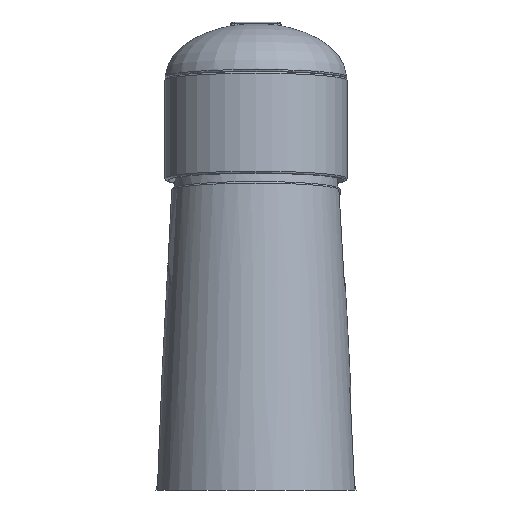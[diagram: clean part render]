
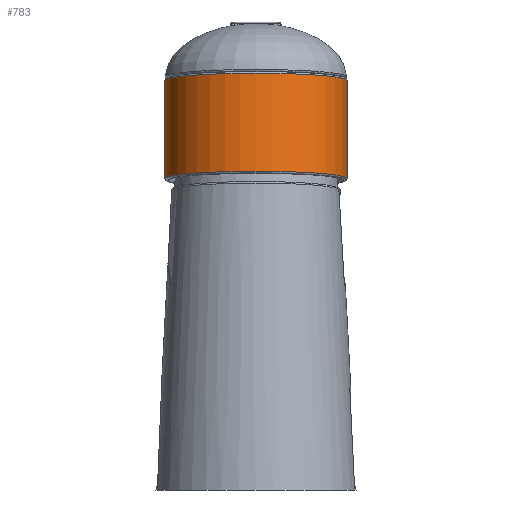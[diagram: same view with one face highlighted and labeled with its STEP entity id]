
A CAD part, left-side view. The second image highlights one B-rep face of the part: STEP entity #783.
In plain terms, the highlighted cylindrical face has radius 25 mm (diameter 50 mm), a full revolution.
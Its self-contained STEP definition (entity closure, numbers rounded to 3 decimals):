
#783=ADVANCED_FACE('',(#4596,#4598,#4600),#4602,.T.);
#4596=FACE_OUTER_BOUND('',#4597,.T.);
#4597=EDGE_LOOP('',(#7084));
#4598=FACE_OUTER_BOUND('',#4599,.T.);
#4599=EDGE_LOOP('',(#7085));
#4600=FACE_BOUND('',#4601,.T.);
#4601=EDGE_LOOP('',(#7086,#7087,#7088,#7089));
#4602=CYLINDRICAL_SURFACE('',#4603,25.);
#4603=AXIS2_PLACEMENT_3D('',#4604,#4605,#4606);
#4604=CARTESIAN_POINT('',(0.,0.,0.));
#4605=DIRECTION('',(0.,0.,1.));
#4606=DIRECTION('',(0.,1.,0.));
#7084=ORIENTED_EDGE('',*,*,#7442,.F.);
#7085=ORIENTED_EDGE('',*,*,#7441,.T.);
#7086=ORIENTED_EDGE('',*,*,#7443,.F.);
#7087=ORIENTED_EDGE('',*,*,#7444,.F.);
#7088=ORIENTED_EDGE('',*,*,#7445,.F.);
#7089=ORIENTED_EDGE('',*,*,#7446,.F.);
#7441=EDGE_CURVE('',#7795,#7795,#7796,.T.);
#7442=EDGE_CURVE('',#7797,#7797,#7798,.T.);
#7443=EDGE_CURVE('',#7799,#7800,#7801,.T.);
#7444=EDGE_CURVE('',#7802,#7799,#7803,.T.);
#7445=EDGE_CURVE('',#7804,#7802,#7805,.F.);
#7446=EDGE_CURVE('',#7800,#7804,#7806,.F.);
#7795=VERTEX_POINT('',#9744);
#7796=CIRCLE('',#9745,25.);
#7797=VERTEX_POINT('',#9749);
#7798=CIRCLE('',#9750,25.);
#7799=VERTEX_POINT('',#9754);
#7800=VERTEX_POINT('',#9755);
#7801=LINE('',#9756,#9757);
#7802=VERTEX_POINT('',#9759);
#7803=B_SPLINE_CURVE_WITH_KNOTS('',3,
(#9760,#9761,#9762,#9763,#9764,#9765,#9766,#9767,#9768,#9769,#9770,#9771,#9772,#9773,
#9774,#9775,#9776,#9777,#9778,#9779),
.UNSPECIFIED.,.F.,.F.,
(4,1,3,1,1,1,1,1,1,1,1,3,1,4),
(0.,0.089,0.138,0.223,0.308,0.391,
0.473,0.554,0.635,0.717,0.801,
0.862,0.95,1.),
.UNSPECIFIED.);
#7804=VERTEX_POINT('',#9780);
#7805=LINE('',#9781,#9782);
#7806=B_SPLINE_CURVE_WITH_KNOTS('',3,
(#9784,#9785,#9786,#9787,#9788,#9789,#9790,#9791,#9792,#9793,#9794,#9795,#9796,#9797,
#9798,#9799,#9800,#9801,#9802,#9803),
.UNSPECIFIED.,.F.,.F.,
(4,1,3,1,1,1,1,1,1,1,1,3,1,4),
(0.,0.088,0.137,0.222,0.307,0.39,
0.472,0.552,0.634,0.716,0.799,
0.863,0.95,1.),
.UNSPECIFIED.);
#9744=CARTESIAN_POINT('',(0.,25.,0.5));
#9745=AXIS2_PLACEMENT_3D('',#9746,#9747,#9748);
#9746=CARTESIAN_POINT('',(0.,0.,0.5));
#9747=DIRECTION('',(0.,-0.,1.));
#9748=DIRECTION('',(0.,1.,0.));
#9749=CARTESIAN_POINT('',(0.,25.,27.5));
#9750=AXIS2_PLACEMENT_3D('',#9751,#9752,#9753);
#9751=CARTESIAN_POINT('',(0.,0.,27.5));
#9752=DIRECTION('',(0.,-0.,1.));
#9753=DIRECTION('',(0.,1.,0.));
#9754=CARTESIAN_POINT('',(23.132,9.483,6.124));
#9755=CARTESIAN_POINT('',(23.132,9.483,24.289));
#9756=CARTESIAN_POINT('',(23.132,9.483,6.124));
#9757=VECTOR('',#9758,1.);
#9758=DIRECTION('',(0.,0.,1.));
#9759=CARTESIAN_POINT('',(23.132,-9.483,6.124));
#9760=CARTESIAN_POINT('',(23.132,-9.483,6.124));
#9761=CARTESIAN_POINT('',(23.348,-8.956,6.29));
#9762=CARTESIAN_POINT('',(23.653,-8.133,6.525));
#9763=CARTESIAN_POINT('',(23.914,-7.296,6.726));
#9764=CARTESIAN_POINT('',(24.,-7.,6.792));
#9765=CARTESIAN_POINT('',(24.156,-6.464,6.912));
#9766=CARTESIAN_POINT('',(24.432,-5.387,7.124));
#9767=CARTESIAN_POINT('',(24.734,-3.761,7.356));
#9768=CARTESIAN_POINT('',(24.926,-2.142,7.504));
#9769=CARTESIAN_POINT('',(25.011,-0.538,7.57));
#9770=CARTESIAN_POINT('',(24.995,1.054,7.557));
#9771=CARTESIAN_POINT('',(24.877,2.644,7.467));
#9772=CARTESIAN_POINT('',(24.655,4.242,7.296));
#9773=CARTESIAN_POINT('',(24.356,5.698,7.066));
#9774=CARTESIAN_POINT('',(24.113,6.614,6.879));
#9775=CARTESIAN_POINT('',(24.,7.,6.792));
#9776=CARTESIAN_POINT('',(23.843,7.537,6.672));
#9777=CARTESIAN_POINT('',(23.57,8.37,6.461));
#9778=CARTESIAN_POINT('',(23.253,9.188,6.217));
#9779=CARTESIAN_POINT('',(23.132,9.483,6.124));
#9780=CARTESIAN_POINT('',(23.132,-9.483,24.289));
#9781=CARTESIAN_POINT('',(23.132,-9.483,6.124));
#9782=VECTOR('',#9783,1.);
#9783=DIRECTION('',(0.,0.,1.));
#9784=CARTESIAN_POINT('',(23.132,-9.483,24.289));
#9785=CARTESIAN_POINT('',(23.346,-8.959,24.439));
#9786=CARTESIAN_POINT('',(23.651,-8.137,24.651));
#9787=CARTESIAN_POINT('',(23.913,-7.299,24.834));
#9788=CARTESIAN_POINT('',(24.,-7.,24.894));
#9789=CARTESIAN_POINT('',(24.156,-6.466,25.003));
#9790=CARTESIAN_POINT('',(24.43,-5.395,25.194));
#9791=CARTESIAN_POINT('',(24.731,-3.776,25.404));
#9792=CARTESIAN_POINT('',(24.924,-2.162,25.538));
#9793=CARTESIAN_POINT('',(25.011,-0.561,25.599));
#9794=CARTESIAN_POINT('',(24.996,1.029,25.588));
#9795=CARTESIAN_POINT('',(24.88,2.617,25.508));
#9796=CARTESIAN_POINT('',(24.661,4.211,25.355));
#9797=CARTESIAN_POINT('',(24.361,5.676,25.146));
#9798=CARTESIAN_POINT('',(24.116,6.602,24.975));
#9799=CARTESIAN_POINT('',(24.,7.,24.894));
#9800=CARTESIAN_POINT('',(23.844,7.534,24.786));
#9801=CARTESIAN_POINT('',(23.571,8.367,24.595));
#9802=CARTESIAN_POINT('',(23.254,9.185,24.374));
#9803=CARTESIAN_POINT('',(23.132,9.483,24.289));
